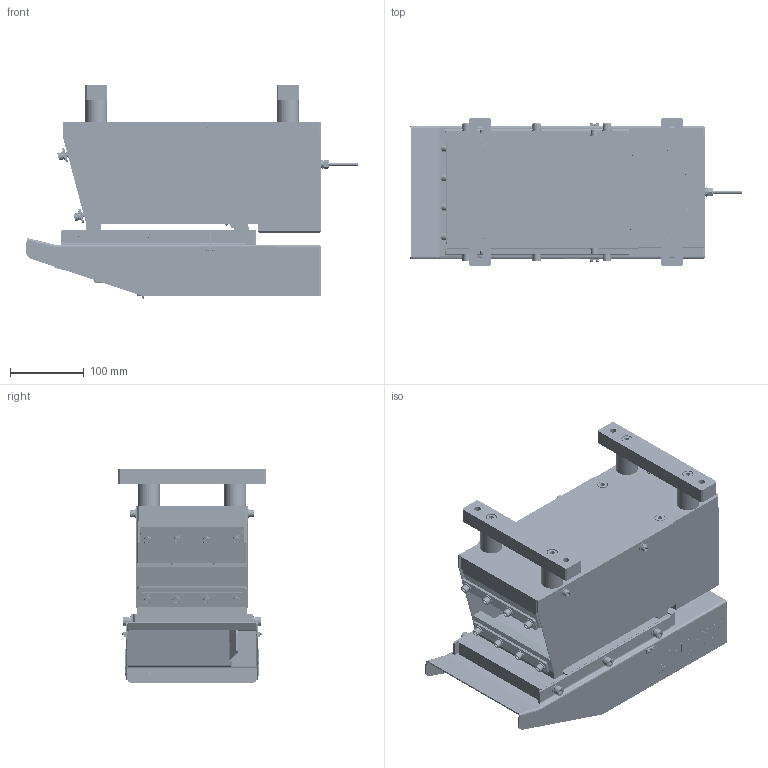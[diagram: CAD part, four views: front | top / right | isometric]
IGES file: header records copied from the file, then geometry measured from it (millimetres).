
Start section: SolidWorks IGES file using analytic representation for surfaces
Bounding box: 450.08 x 200 x 289.12 mm (x, y, z)
Surface area: 1073646.8 mm2 (no closed solid volume)
Topology: 0 solids, 0 shells, 3016 faces, 41262 edges, 41200 vertices
Faces by surface type: bspline 1712, revolution 1304
